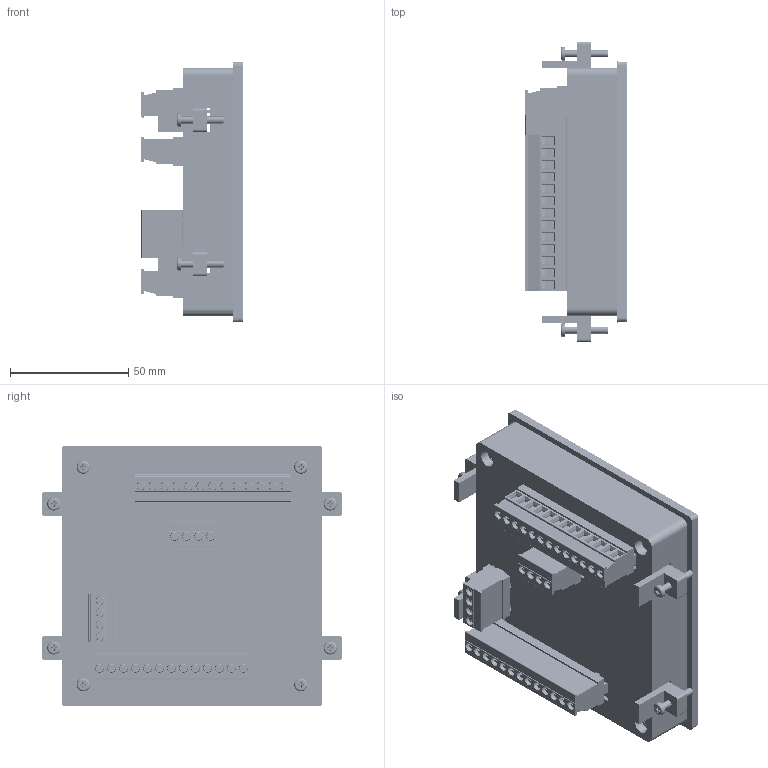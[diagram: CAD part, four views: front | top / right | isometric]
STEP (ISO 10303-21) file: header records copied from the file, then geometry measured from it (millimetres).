
FILE_DESCRIPTION(('STEP AP214'), '1');
FILE_NAME('MC-4RTD6O-ST', '', ('UNSPECIFIED'), ('UNSPECIFIED'), 'C3D Converter', 'C3D Toolkit', '');
FILE_SCHEMA(('AUTOMOTIVE_DESIGN { 1 0 10303 214 3 1 1}'));
Length unit declared in the file: millimetre
Bounding box: 43.41 x 127.08 x 110.42 mm (x, y, z)
Volume: 14303.8 mm3; surface area: 143680.3 mm2
Topology: 5 solids, 7 shells, 7279 faces, 19982 edges, 13172 vertices
Faces by surface type: plane 4045, extrusion 1668, cylinder 1087, torus 199, cone 115, bspline 88, sphere 77
Full cylindrical faces by diameter (mm): 0.853 x1, 1 x21, 1.5 x34, 2 x8, 2.5 x4, 3 x47, 3.486 x6, 3.635 x4, 3.7 x2, 3.8 x4, 3.85 x34, 3.984 x1, 4.8 x4, 5 x4, 5.6 x8, 6.972 x4, 7.47 x2, 7.968 x4
Entity records: 316492 total; most frequent: CARTESIAN_POINT 81168, ORIENTED_EDGE 38901, DIRECTION 30788, EDGE_CURVE 19458, VECTOR 13996, VERTEX_POINT 13113, LINE 12328, AXIS2_PLACEMENT_3D 8396
